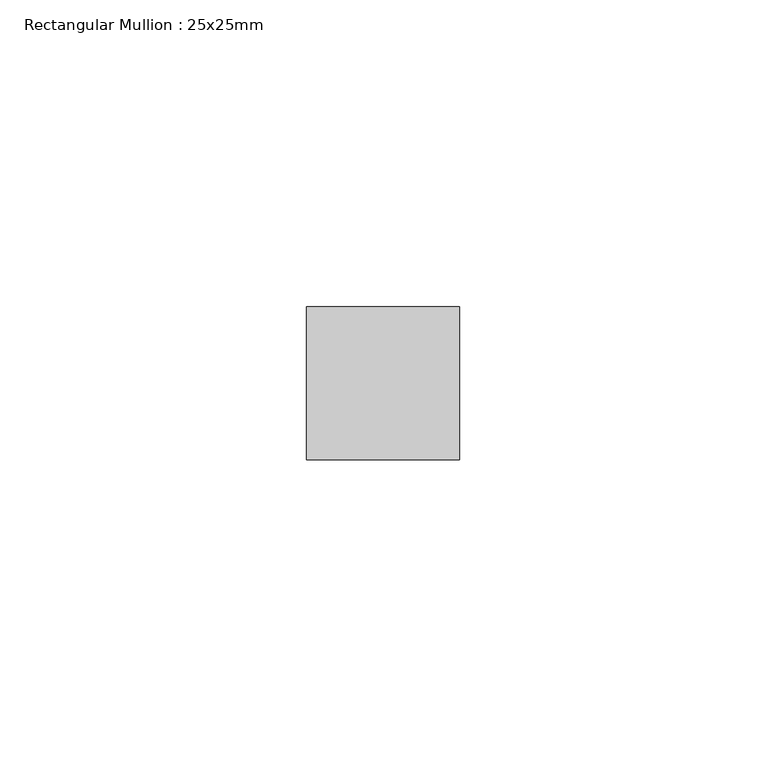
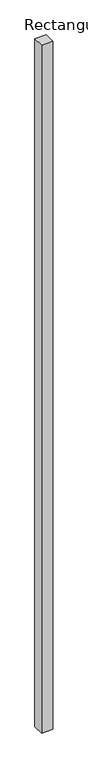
"""IFC4 building model written with IfcOpenShell, lengths in millimetres: member geometry, Rectangular Mullion : 25x25mm."""

from ifc_helpers import new_model, si_unit, frame, origin, place, context, project, spatial, polyline, outline, extrude, source, transform, mapped, element, save


def rectangular_mullion_25x25mm_d2893cce(model_context):
    return source(origin(), model_context, "Body", "SweptSolid", [
        extrude(outline(polyline([(12.5, 0.5), (12.5, -24.5), (-12.5, -24.5), (-12.5, 0.5), (12.5, 0.5)])), frame((0.0, 0.0, -1590.625), z_axis=(0.0, 0.0, 1.0), x_axis=(1.0, 0.0, 0.0)), (0.0, 0.0, 1.0), 1590.625),
    ])


if __name__ == "__main__":
    model = new_model("IFC4")
    model_context = context("Model", 3, world=origin())
    ifc_project = project(units=[si_unit("LENGTHUNIT", "METRE", prefix="MILLI")], contexts=[model_context])
    site = spatial("IfcSite", under=ifc_project)
    building = spatial("IfcBuilding", under=site)
    placement = place(None, origin())
    rectangular_mullion_25x25mm_shape = rectangular_mullion_25x25mm_d2893cce(model_context)
    element("IfcMember", 1, ObjectType="Rectangular Mullion : 25x25mm", at=placement, inside=building, context=model_context, shape_type="MappedRepresentation", body=[
        mapped(rectangular_mullion_25x25mm_shape, transform((0.0, 0.0, 0.0), x_axis=(1.0, 0.0, 0.0), y_axis=(0.0, 1.0, 0.0), z_axis=(0.0, 0.0, 1.0))),
    ])
    save(model, "model.ifc")
